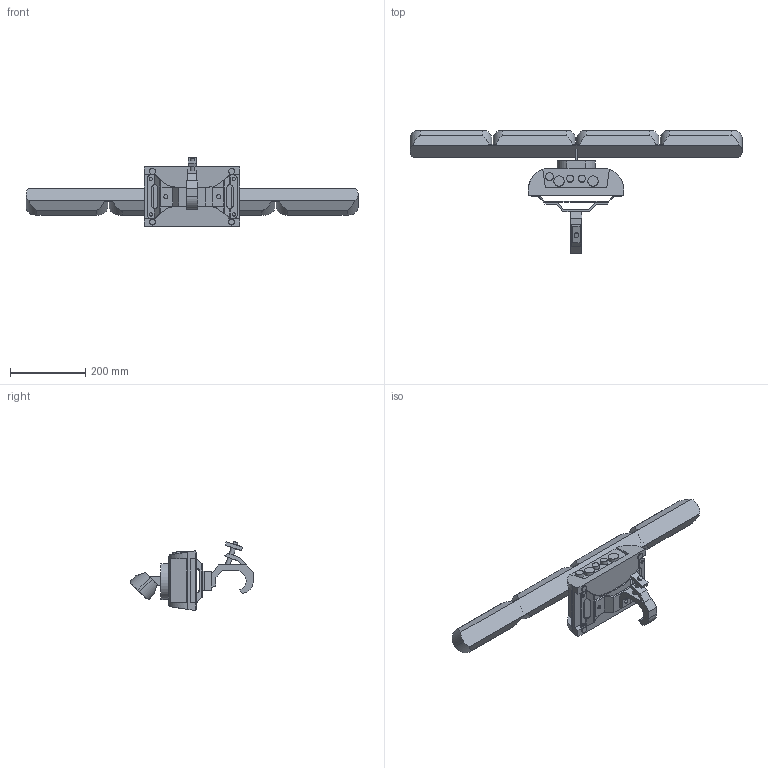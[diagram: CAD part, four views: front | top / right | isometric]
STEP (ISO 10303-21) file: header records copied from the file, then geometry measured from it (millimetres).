
FILE_DESCRIPTION( ( 'Unknown' ), '1' );
FILE_NAME( 'K:/ROBE-LED/16 CityFlex 48MC/04 3D_Symbols_2D_Dimensions/3D_CityFlex 48MC_45.stp', 'Unknown', ( '*' ), ( '*' ), 'PSStep 15.0.49', 'SolidEdge', ' ' );
FILE_SCHEMA( ( 'AUTOMOTIVE_DESIGN { 1 0 10303 214 1 1 1 1 }' ) );
Length unit declared in the file: millimetre
Products named in the file (7): Omega_SlimClamp_90; Omega+SlimClamp; Clamp Doughty Slimline QT; Assem1; ZdrojCF48; LEDmodul; 11513627 Adaptér
Assembly tree (6 placements, depth 3):
  Assem1
    ZdrojCF48
    LEDmodul
    11513627 Adaptér
    Omega_SlimClamp_90
      Omega+SlimClamp
      Clamp Doughty Slimline QT
Bounding box: 880 x 325.02 x 183.46 mm (x, y, z)
Volume: 4959738.4 mm3; surface area: 421491.7 mm2
Topology: 5 solids, 5 shells, 271 faces, 702 edges, 454 vertices
Faces by surface type: plane 159, cylinder 92, bspline 12, cone 8
Full cylindrical faces by diameter (mm): 3.6 x4, 6 x4, 8.5 x4, 10 x2, 11 x2, 12 x4, 13 x2, 16.099 x4, 18.481 x2, 20.893 x1, 27.451 x2
Entity records: 10599 total; most frequent: CARTESIAN_POINT 1755, DIRECTION 1371, ORIENTED_EDGE 1302, EDGE_CURVE 651, AXIS2_PLACEMENT_3D 482, VERTEX_POINT 438, LINE 407, VECTOR 407
